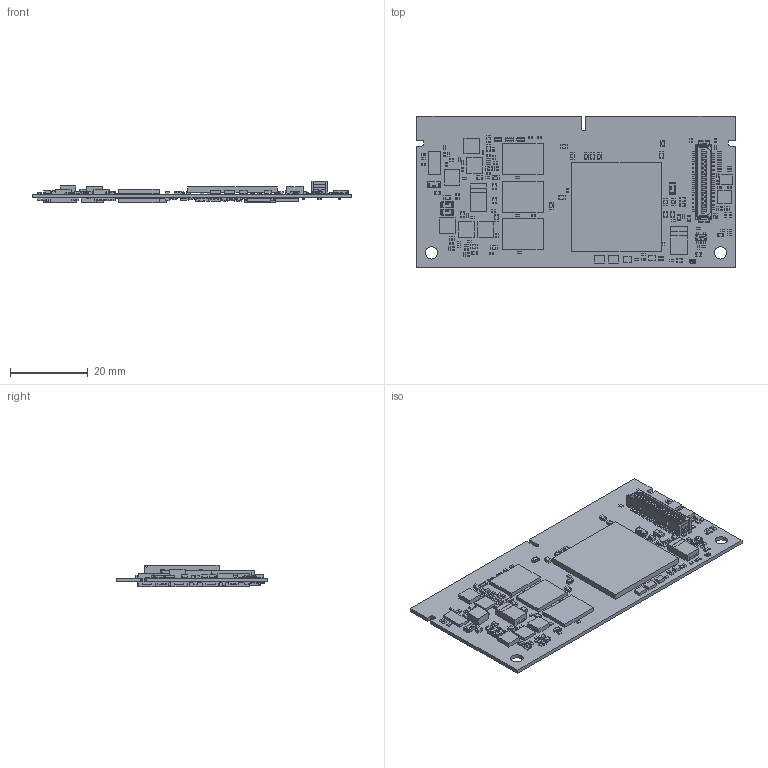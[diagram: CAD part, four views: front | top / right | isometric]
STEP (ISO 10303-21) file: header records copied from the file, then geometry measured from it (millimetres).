
FILE_DESCRIPTION(('Open CASCADE Model'),'2;1');
FILE_NAME('Open CASCADE Shape Model','2013-12-06T09:39:19',('Author'),( 'Open CASCADE'),'Open CASCADE STEP processor 6.2','Open CASCADE 6.2' ,'Unknown');
FILE_SCHEMA(('AUTOMOTIVE_DESIGN { 1 0 10303 214 1 1 1 1 }'));
Length unit declared in the file: millimetre
Products named in the file (462): PCB; Board; C152; 677121088; Extruded; 677121472; C151; C150; 677122368; 677122496; R83; 677117888; 677118144; 677117760; D5; 1022664720; 1022665104; 1022664976; R76; C149; C148; C71; R61; R60; 677122624; 677122752; 677118016; R59; R58; R57; R56; R55; D2; 1022663952; 1022664592; 1022664336; C139; C138; C137; C136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
Assembly tree (1483 placements, depth 4):
  PCB
    Board
    C152
      677121088  x2
        Extruded
      677121472
        Extruded
    C151
      677121088  x2
        Extruded
      677121472
        Extruded
    C150
      677122368  x2
        Extruded
      677122496
        Extruded
    R83
      677117888  x2
        Extruded
      677118144
        Extruded
      677117760
        Extruded
    D5
      1022664720  x2
        Extruded
      1022665104
        Extruded
      1022664976
        Extruded
    R76
      677117888  x2
        Extruded
      677118144
        Extruded
      677117760
        Extruded
    C149
      677122368  x2
        Extruded
      677122496
        Extruded
    C148
      677122368  x2
        Extruded
      677122496
        Extruded
    C71
      677122368  x2
        Extruded
      677122496
        Extruded
    R61
      677117888  x2
        Extruded
      677118144
        Extruded
      677117760
        Extruded
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Bounding box: 82 x 39 x 5.53 mm (x, y, z)
Volume: 5340.5 mm3; surface area: 12792.1 mm2
Topology: 1114 solids, 1114 shells, 8834 faces, 19463 edges, 12800 vertices
Faces by surface type: plane 7798, bspline 473, cylinder 465, sphere 88, torus 6, cone 4
Full cylindrical faces by diameter (mm): 1.35 x2, 3.175 x2
Entity records: 192243 total; most frequent: CARTESIAN_POINT 59970, DIRECTION 20699, ORIENTED_EDGE 12218, PCURVE 12218, DEFINITIONAL_REPRESENTATION 12218, LINE 11655, VECTOR 11655, EDGE_CURVE 6109
